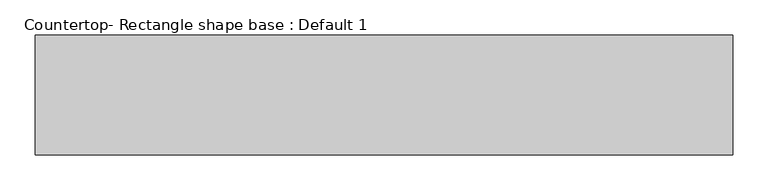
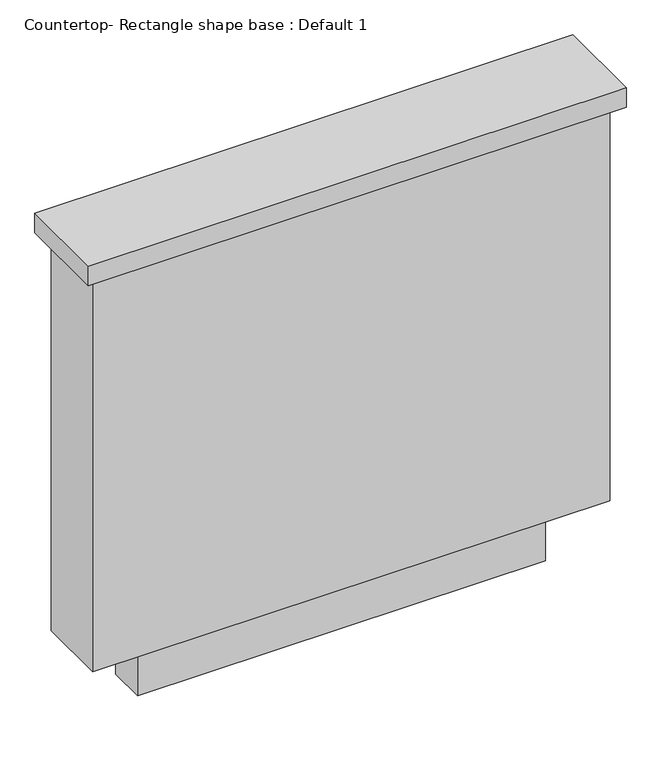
"""IFC4 building model written with IfcOpenShell, lengths in millimetres: proxy geometry, Countertop- Rectangle shape base : Default 1."""

from ifc_helpers import new_model, si_unit, frame, origin, origin_with_axes, place, context, project, spatial, polyline, outline, extrude, source, transform, mapped, element, save


def countertop_rectangle_shape_base_default_1_5083fd9c(model_context):
    return source(origin(), model_context, "Body", "SweptSolid", [
        extrude(outline(polyline([(263.525, 295.275), (263.525, 466.725), (1260.475, 466.725), (1260.475, 295.275), (263.525, 295.275)])), frame((0.0, 0.0, 876.3), z_axis=(0.0, 0.0, 1.0), x_axis=(1.0, 0.0, 0.0)), (0.0, 0.0, 1.0), 38.1),
        extrude(outline(polyline([(1241.425, 447.675), (1241.425, 314.325), (282.575, 314.325), (282.575, 447.675), (1241.425, 447.675)])), frame((0.0, 0.0, 101.6), z_axis=(0.0, 0.0, 1.0), x_axis=(1.0, 0.0, 0.0)), (0.0, 0.0, 1.0), 774.7),
        extrude(outline(polyline([(1139.825, 346.075), (384.175, 346.075), (384.175, 415.925), (1139.825, 415.925), (1139.825, 346.075)])), origin_with_axes(), (0.0, 0.0, 1.0), 101.6),
    ])


if __name__ == "__main__":
    model = new_model("IFC4")
    model_context = context("Model", 3, world=origin())
    ifc_project = project(units=[si_unit("LENGTHUNIT", "METRE", prefix="MILLI")], contexts=[model_context])
    site = spatial("IfcSite", under=ifc_project)
    building = spatial("IfcBuilding", under=site)
    placement = place(None, origin())
    countertop_rectangle_shape_base_default_1_shape = countertop_rectangle_shape_base_default_1_5083fd9c(model_context)
    element("IfcBuildingElementProxy", 1, Name="Countertop- Rectangle shape base : Default 1", ObjectType="Countertop- Rectangle shape base : Default 1", at=placement, inside=building, context=model_context, shape_type="MappedRepresentation", body=[
        mapped(countertop_rectangle_shape_base_default_1_shape, transform((0.0, 0.0, 0.0), x_axis=(1.0, 0.0, 0.0), y_axis=(0.0, 1.0, 0.0), z_axis=(0.0, 0.0, 1.0))),
    ])
    save(model, "model.ifc")
